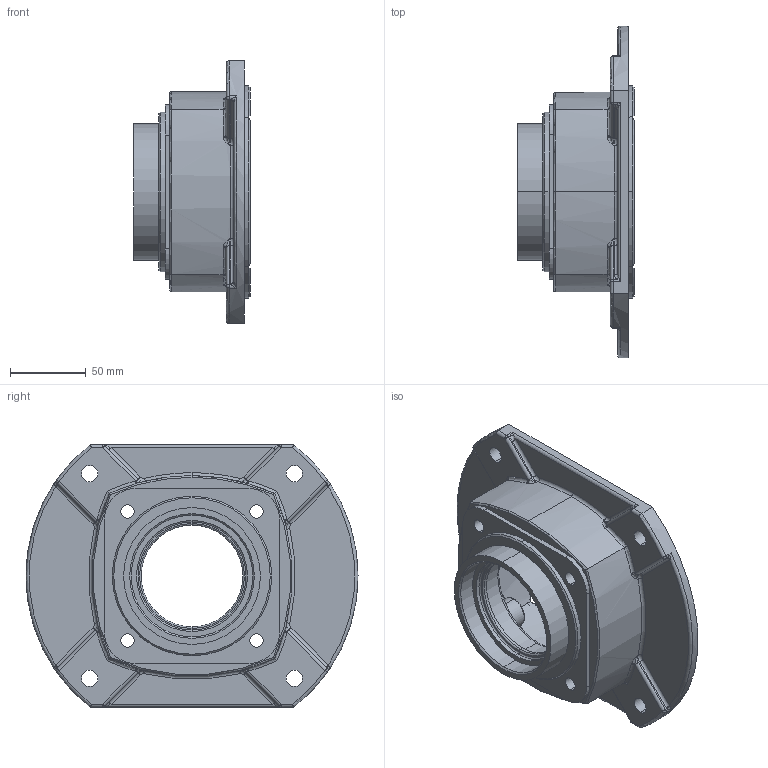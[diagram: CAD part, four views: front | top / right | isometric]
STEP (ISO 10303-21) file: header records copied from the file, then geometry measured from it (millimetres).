
FILE_DESCRIPTION (( 'STEP AP203' ), '1' );
FILE_NAME ('KFYM0612181S.STEP', '2020-05-05T07:37:00', ( 'Microsoft' ), ( 'Microsoft' ), 'SwSTEP 2.0', 'SolidWorks 2012', '' );
FILE_SCHEMA (( 'CONFIG_CONTROL_DESIGN' ));
Length unit declared in the file: millimetre
Products named in the file (1): KFYM0612181S
Bounding box: 76.5 x 218.44 x 172.72 mm (x, y, z)
Volume: 454988.5 mm3; surface area: 125214 mm2
Topology: 1 solids, 1 shells, 385 faces, 921 edges, 527 vertices
Faces by surface type: cylinder 107, torus 105, bspline 64, plane 57, cone 44, sphere 8
Entity records: 13800 total; most frequent: CARTESIAN_POINT 5172, DIRECTION 1885, ORIENTED_EDGE 1778, EDGE_CURVE 889, AXIS2_PLACEMENT_3D 832, VERTEX_POINT 523, CIRCLE 510, EDGE_LOOP 420
